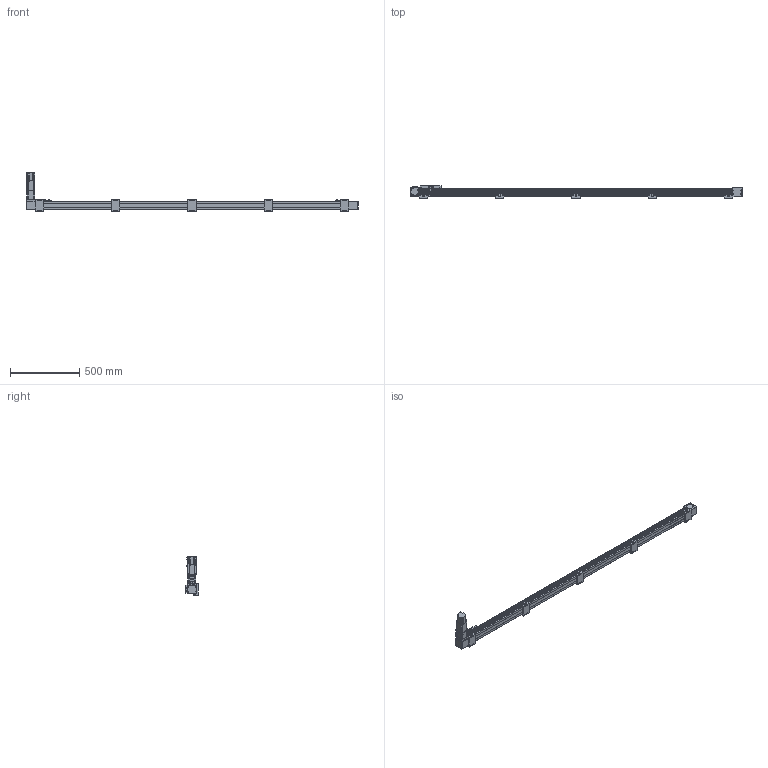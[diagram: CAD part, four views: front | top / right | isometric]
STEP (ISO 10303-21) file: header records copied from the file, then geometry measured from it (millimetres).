
FILE_DESCRIPTION(/* description */ ('STEP AP203'),/* implementation_level */ '2;1');
FILE_NAME(/* name */ 'SK60-P13-S2100-BL-T40-C1-N(0)',/* time_stamp */ '2023-04-06T03:37:41+02:00',/* author */ ('License CC BY-ND 4.0'),/* organization */ ('CADENAS'),/* preprocessor_version */ 'ST-DEVELOPER v19.3',/* originating_system */ 'PARTsolutions',/* authorisation */ ' ');
FILE_SCHEMA (('CONFIG_CONTROL_DESIGN'));
Length unit declared in the file: millimetre
Products named in the file (11): SK60-P13-S2100-BL-T40-C1-N(0); PSC140-sensor; SK60-S450_seat; SK60-S450-BL-C1_slider; SK60_body3; SK60_body6; SK60-BL_body2; T40-p1; SK60_body5; SK60_body4; SK60-S2100-BL-C1_body
Assembly tree (20 placements, depth 2):
  SK60-P13-S2100-BL-T40-C1-N(0)
    PSC140-sensor  x3
    SK60-S450_seat  x5
    SK60-S450-BL-C1_slider
    SK60_body3  x3
    SK60_body6  x2
    SK60-BL_body2  x2
    T40-p1
    SK60_body5
    SK60_body4
    SK60-S2100-BL-C1_body
Bounding box: 2400 x 90 x 278.2 mm (x, y, z)
Volume: 8782914.3 mm3; surface area: 1094750.6 mm2
Topology: 20 solids, 24 shells, 966 faces, 2403 edges, 1586 vertices
Faces by surface type: plane 616, cylinder 314, cone 34, torus 2
Full cylindrical faces by diameter (mm): 2.8 x3, 3.3 x4, 4.2 x8, 4.5 x26, 4.6 x3, 4.917 x28, 5 x2, 5.478 x4, 5.5 x31, 6.5 x10, 8 x4, 8.5 x4, 9.988 x4, 10 x20, 13.556 x1, 14 x1, 14.586 x1, 19.692 x1, 38.432 x2, 43 x1, 44 x3, 47 x2, 50 x2
Entity records: 19395 total; most frequent: DIRECTION 3298, CARTESIAN_POINT 3292, ORIENTED_EDGE 3050, EDGE_CURVE 1525, AXIS2_PLACEMENT_3D 1103, LINE 1092, VECTOR 1092, VERTEX_POINT 1077
